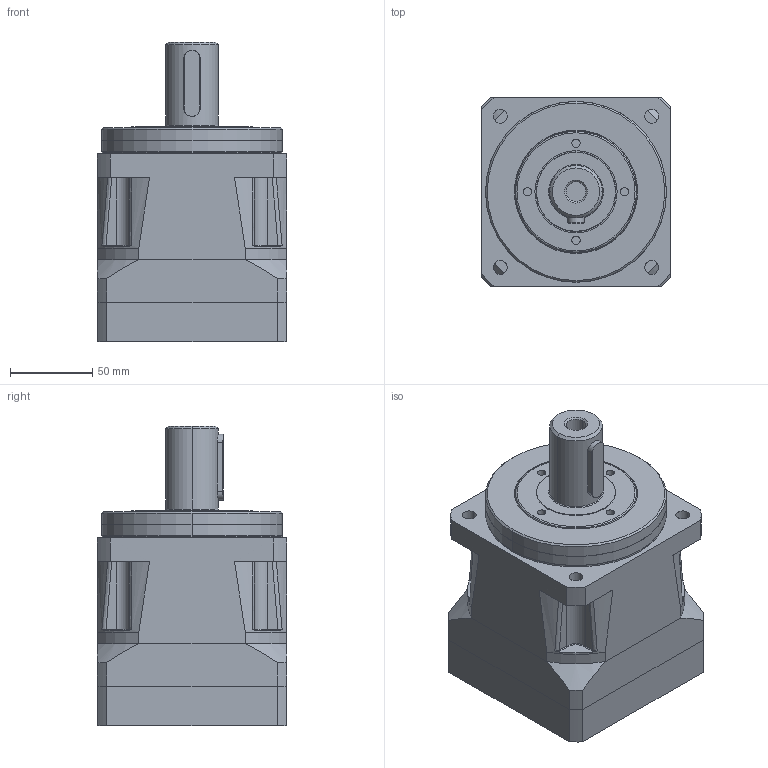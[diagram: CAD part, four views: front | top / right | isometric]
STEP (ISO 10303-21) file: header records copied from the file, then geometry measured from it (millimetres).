
FILE_DESCRIPTION((''),'2;1');
FILE_NAME('PS115-XXX-000-X2_ASM','2009-03-24T',('ata7311'),(''),'PRO/ENGINEER BY PARAMETRIC TECHNOLOGY CORPORATION, 2006300','PRO/ENGINEER BY PARAMETRIC TECHNOLOGY CORPORATION, 2006300','');
FILE_SCHEMA(('CONFIG_CONTROL_DESIGN'));
Products named in the file (14): 13359XXX; 13363000; HD202-0007; 10087125; 13355XXX_ASM; 13364000; 13360XXX; 13120003; M6X25; 12292001; 13356XXX_ASM; 13458001; M6X50; PS115-XXX-000-X2_ASM
Assembly tree (17 placements, depth 3):
  PS115-XXX-000-X2_ASM
    13355XXX_ASM
      13359XXX
      13363000
      HD202-0007
      10087125
    13356XXX_ASM
      13364000
      13360XXX
      13120003
      M6X25
      12292001  x2
    13458001
    M6X50  x4
Bounding box: 115 x 115.01 x 182.2 mm (x, y, z)
Volume: 1032490.2 mm3; surface area: 225751.8 mm2
Topology: 15 solids, 15 shells, 497 faces, 1143 edges, 734 vertices
Faces by surface type: cylinder 222, plane 179, cone 48, torus 24, bspline 24
Entity records: 13980 total; most frequent: CARTESIAN_POINT 3662, DIRECTION 2249, ORIENTED_EDGE 1986, EDGE_CURVE 993, AXIS2_PLACEMENT_3D 927, VERTEX_POINT 636, EDGE_LOOP 517, CIRCLE 483
